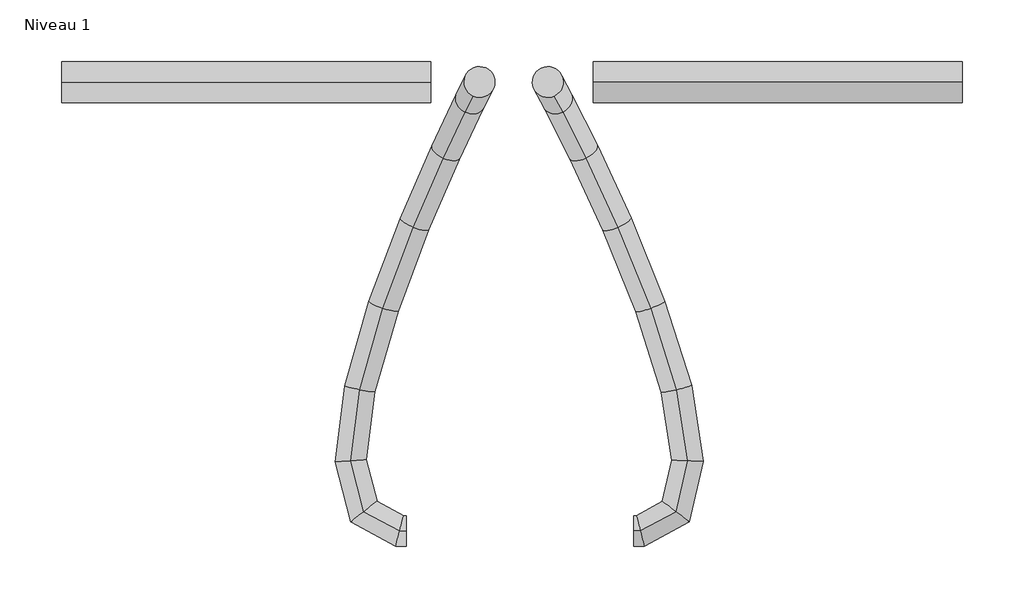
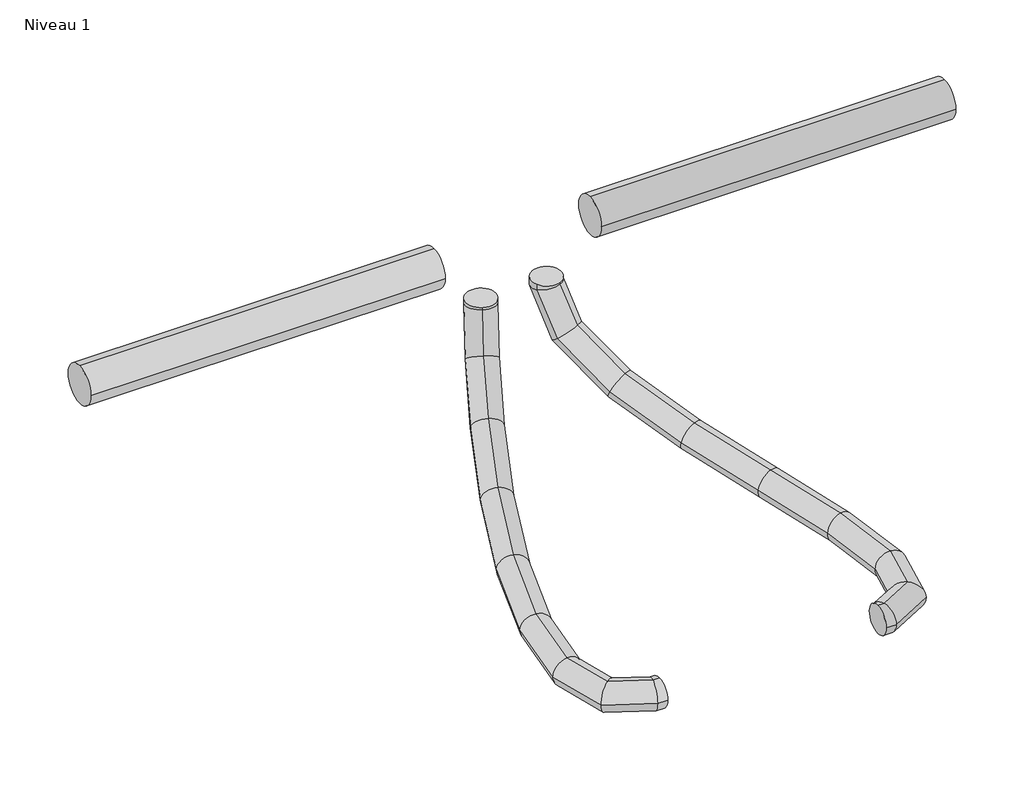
# One storey, incomplete: 4 pipe segments.
"""IFC4 building model written with IfcOpenShell, lengths in millimetres."""

import ifcopenshell
import ifcopenshell.guid

model = None  # the IFC model being written
_history = None  # IfcOwnerHistory: only IFC2X3 demands one
_inside = {}  # id of a spatial element -> (the spatial element, [elements in it])
_under = {}  # id of a project, library or spatial element -> (it, [spatial elements below it])
_declared = {}  # id of a project -> (the project, [libraries it declares])
_typed = {}  # id of a type object -> (the type object, [elements of that type])
_made_of = {}  # id of a material, layer set ... -> (it, [elements and type objects made of it])


def new_model(schema):
    """Start an empty IFC model of exactly this schema.

    Asked for "IFC4X3", IfcOpenShell would pick the latest addendum, in which some entities
    have other attributes; the version numbers below select the first issue.
    IFC2X3 requires an IfcOwnerHistory on every rooted entity: one is made here for all.
    """
    global model, _history
    if schema == "IFC4X3":
        model = ifcopenshell.file(schema_version=(4, 3, 0, 0))
    else:
        model = ifcopenshell.file(schema=schema)
    _inside.clear()
    _under.clear()
    _declared.clear()
    _typed.clear()
    _made_of.clear()
    _history = None
    if model.schema == "IFC2X3":
        org = make("IfcOrganization", Name="unknown")
        user = make(
            "IfcPersonAndOrganization",
            ThePerson=make("IfcPerson", FamilyName="unknown"),
            TheOrganization=org,
        )
        app = make(
            "IfcApplication",
            ApplicationDeveloper=org,
            Version="unknown",
            ApplicationFullName="unknown",
            ApplicationIdentifier="unknown",
        )
        _history = make(
            "IfcOwnerHistory",
            OwningUser=user,
            OwningApplication=app,
            ChangeAction="ADDED",
            CreationDate=0,
        )
    return model


def make(cls, **values):
    """One entity of the class cls with the attributes given. An attribute that is None is left unset."""
    return model.create_entity(
        cls, **{name: value for name, value in values.items() if value is not None}
    )


def rooted(cls, **values):
    """An entity with a GlobalId (a new one), such as an element, a storey or a relation."""
    return make(cls, GlobalId=ifcopenshell.guid.new(), OwnerHistory=_history, **values)


def si_unit(unit_type, name, prefix=None):
    """IfcSIUnit, for example si_unit("LENGTHUNIT", "METRE", prefix="MILLI")."""
    return make("IfcSIUnit", UnitType=unit_type, Prefix=prefix, Name=name)


def assignment(units):
    """IfcUnitAssignment: the units of a project."""
    return None if units is None else make("IfcUnitAssignment", Units=units)


def point(xyz):
    """IfcCartesianPoint."""
    return None if xyz is None else make("IfcCartesianPoint", Coordinates=xyz)


def direction(xyz):
    """IfcDirection."""
    return None if xyz is None else make("IfcDirection", DirectionRatios=xyz)


def frame(location, z_axis=None, x_axis=None):
    """IfcAxis2Placement3D, a coordinate frame: its origin and axes. An axis left out is left unset."""
    return make(
        "IfcAxis2Placement3D",
        Location=point(location),
        Axis=direction(z_axis),
        RefDirection=direction(x_axis),
    )


def frame_2d(location, x_axis=None):
    """IfcAxis2Placement2D, a coordinate frame in the plane: its origin and x axis."""
    return make(
        "IfcAxis2Placement2D", Location=point(location), RefDirection=direction(x_axis)
    )


def origin():
    """The frame at (0, 0, 0) with its axes left unset."""
    return frame((0.0, 0.0, 0.0))


def place(relative_to, where):
    """IfcLocalPlacement: puts the frame where relative to a parent placement (None: the world)."""
    return make(
        "IfcLocalPlacement", PlacementRelTo=relative_to, RelativePlacement=where
    )


def context(
    kind, dimensions, precision=None, world=None, true_north=None, identifier=None
):
    """IfcGeometricRepresentationContext, for example the 3D "Model" context."""
    return make(
        "IfcGeometricRepresentationContext",
        ContextIdentifier=identifier,
        ContextType=kind,
        CoordinateSpaceDimension=dimensions,
        Precision=precision,
        WorldCoordinateSystem=world,
        TrueNorth=true_north,
    )


def project(units=None, contexts=None):
    """IfcProject with its units and contexts."""
    return rooted(
        "IfcProject",
        Name="project",
        RepresentationContexts=contexts,
        UnitsInContext=assignment(units),
    )


def spatial(cls, under=None, at=None, **own):
    """A site, building, storey or space (cls), placed at a placement, below another one or the project."""
    s = rooted(cls, ObjectPlacement=at, **own)
    if under is not None:
        _under.setdefault(under.id(), (under, []))[1].append(s)
    return s


def circle_curve(where, radius):
    """IfcCircle in the frame where."""
    return make("IfcCircle", Position=where, Radius=radius)


def ellipse_curve(where, semi_axis1, semi_axis2):
    """IfcEllipse in the frame where."""
    return make(
        "IfcEllipse", Position=where, SemiAxis1=semi_axis1, SemiAxis2=semi_axis2
    )


def trimmed(basis, trim1, trim2, sense, master):
    """IfcTrimmedCurve: the piece of a basis curve between two trims."""
    return make(
        "IfcTrimmedCurve",
        BasisCurve=basis,
        Trim1=trim1,
        Trim2=trim2,
        SenseAgreement=sense,
        MasterRepresentation=master,
    )


def segment(curve, same_sense, transition):
    """IfcCompositeCurveSegment."""
    return make(
        "IfcCompositeCurveSegment",
        Transition=transition,
        SameSense=same_sense,
        ParentCurve=curve,
    )


def composite_curve(segments, self_intersect=None):
    """IfcCompositeCurve: segments joined end to end."""
    return make("IfcCompositeCurve", Segments=segments, SelfIntersect=self_intersect)


def outline(outer, holes=None, kind="AREA"):
    """IfcArbitraryClosedProfileDef: a profile drawn as a closed curve; with holes, ...WithVoids."""
    if holes is None:
        return make("IfcArbitraryClosedProfileDef", ProfileType=kind, OuterCurve=outer)
    return make(
        "IfcArbitraryProfileDefWithVoids",
        ProfileType=kind,
        OuterCurve=outer,
        InnerCurves=holes,
    )


def extrude(swept, where, along, depth):
    """IfcExtrudedAreaSolid: the profile swept, set in the frame where, extruded along a direction by depth."""
    return make(
        "IfcExtrudedAreaSolid",
        SweptArea=swept,
        Position=where,
        ExtrudedDirection=direction(along),
        Depth=depth,
    )


def shape(context_of_items, identifier, shape_type, items):
    """IfcShapeRepresentation: the items that make up one representation, for example the "Body"."""
    return make(
        "IfcShapeRepresentation",
        ContextOfItems=context_of_items,
        RepresentationIdentifier=identifier,
        RepresentationType=shape_type,
        Items=items,
    )


def made_of(thing, what):
    """Note that an element or type object is made of a material, layer set ...; save() writes the relation."""
    if what is not None:
        _made_of.setdefault(what.id(), (what, []))[1].append(thing)
    return thing


def element(
    cls,
    number,
    at=None,
    inside=None,
    cuts=None,
    type_object=None,
    material=None,
    context=None,
    identifier="Body",
    shape_type=None,
    held_by="IfcProductDefinitionShape",
    body=None,
    shapes=None,
    **own,
):
    """One element of the class cls, such as IfcWall. Its Tag is "e" and its number.

    at: its placement. inside: the storey or other place that contains it. cuts: it is an
    opening in that element (IfcRelVoidsElement). A single representation is given by context,
    identifier, shape_type and body (its items); several are given by shapes. held_by: the class
    of the entity that holds the representations. save() writes the other relations.
    """
    e = rooted(cls, Tag="e%d" % number, ObjectPlacement=at, **own)
    if body is not None:
        shapes = [shape(context, identifier, shape_type, body)]
    if shapes is not None:
        e.Representation = make(held_by, Representations=shapes)
    if inside is not None:
        _inside.setdefault(inside.id(), (inside, []))[1].append(e)
    if cuts is not None:
        rooted(
            "IfcRelVoidsElement", RelatingBuildingElement=cuts, RelatedOpeningElement=e
        )
    if type_object is not None:
        _typed.setdefault(type_object.id(), (type_object, []))[1].append(e)
    return made_of(e, material)


def aggregate(whole, parts):
    """IfcRelAggregates: a whole, such as a stair, and the parts it consists of."""
    return rooted("IfcRelAggregates", RelatingObject=whole, RelatedObjects=parts)


def save(model, path):
    """Write the relations noted so far, then the file.

    IfcRelAggregates (storeys below a building ...), IfcRelContainedInSpatialStructure (elements
    in a storey), IfcRelDefinesByType, IfcRelAssociatesMaterial and IfcRelDeclares: one each for
    every whole, place, type object, material and project.
    """
    for whole, parts in _under.values():
        aggregate(whole, parts)
    for where, things in _inside.values():
        rooted(
            "IfcRelContainedInSpatialStructure",
            RelatedElements=things,
            RelatingStructure=where,
        )
    for kind, things in _typed.values():
        rooted("IfcRelDefinesByType", RelatedObjects=things, RelatingType=kind)
    for what, things in _made_of.values():
        rooted("IfcRelAssociatesMaterial", RelatedObjects=things, RelatingMaterial=what)
    for by, libraries in _declared.values():
        rooted("IfcRelDeclares", RelatingContext=by, RelatedDefinitions=libraries)
    model.write(path)


def plane_surface(at):
    """IfcPlane: the flat surface through the origin of the frame at, square to its z axis."""
    return make("IfcPlane", Position=at)


def cylinder_surface(at, radius):
    """IfcCylindricalSurface: all points at the distance radius from the z axis of the frame at."""
    return make("IfcCylindricalSurface", Position=at, Radius=radius)


def advanced_brep(points, edges, surfaces, faces):
    """IfcAdvancedBrep: a solid bounded by faces that lie on surfaces and meet in shared edges.

    An edge is (start, end): straight between two places in points (the first is 0);
    or (start, end, curve); or (start, end, curve, False) where it runs against its curve.
    A face is (place in surfaces, loops), or (place, loops, False) where it looks against
    its surface's normal. A loop lists edges by number (the first is 1), with a minus sign
    where the edge is run from its end to its start. The first loop is the outer one.
    """
    corners = [point(p) for p in points]
    vertices = [make("IfcVertexPoint", VertexGeometry=c) for c in corners]
    made = []
    for start, end, *more in edges:
        made.append(
            make(
                "IfcEdgeCurve",
                EdgeStart=vertices[start],
                EdgeEnd=vertices[end],
                EdgeGeometry=more[0] if more else make("IfcPolyline", Points=[corners[start], corners[end]]),
                SameSense=more[1] if len(more) > 1 else True,
            )
        )
    hull = []
    for where, loops, *sense in faces:
        bounds = []
        for j, loop in enumerate(loops):
            ring = [make("IfcOrientedEdge", EdgeElement=made[abs(k) - 1], Orientation=k > 0) for k in loop]
            bounds.append(
                make(
                    "IfcFaceOuterBound" if j == 0 else "IfcFaceBound",
                    Bound=make("IfcEdgeLoop", EdgeList=ring),
                    Orientation=True,
                )
            )
        hull.append(make("IfcAdvancedFace", Bounds=bounds, FaceSurface=surfaces[where], SameSense=sense[0] if sense else True))
    return make("IfcAdvancedBrep", Outer=make("IfcClosedShell", CfsFaces=hull))


model = new_model("IFC4")

# Units and contexts
model_context = context("Model", 3, world=origin())
ifc_project = project(units=[si_unit("LENGTHUNIT", "METRE", prefix="MILLI")], contexts=[model_context])

# Site, building, storey
site = spatial("IfcSite", under=ifc_project)
building = spatial("IfcBuilding", under=site)
storey = spatial("IfcBuildingStorey", under=building, Name="Niveau 1", Elevation=0.0)

# Pipe segments
placement = place(None, origin())
element("IfcPipeSegment", 1, ObjectType="Souple - Circulaire", at=placement, inside=storey, context=model_context, shape_type="AdvancedBrep", body=[
    advanced_brep(
    [(1991.2042978, 1329.673443, 947.5328769), (1991.2042978, 1342.173443, 935.0328769), (1991.2042978, 1354.673443, 947.5328769), (1991.2042978, 1342.173443, 960.0328769), (1982.8698124, 1329.673443, 947.5328769), (1986.1222234, 1342.173443, 935.0328769), (1989.1606692, 1354.673443, 947.5328769), (1985.9082582, 1342.173443, 960.0328769), (2039.4376652, 1712.3356074, 1057.9740311), (2045.8870986, 1695.8764212, 1057.9740311), (2062.3462848, 1702.3258545, 1057.9740311), (2055.8968514, 1718.7850407, 1057.9740311), (1946.0664723, 1349.4490423, 946.8602673), (1957.0116441, 1357.8154785, 934.5008585), (1967.563011, 1366.2785483, 947.1381629), (1956.6178392, 1357.9121121, 959.4975718), (1933.5340361, 1398.4278225, 946.4932663), (1946.3732337, 1399.3921006, 934.1893223), (1958.9266814, 1400.030716, 946.8852558), (1946.0874837, 1399.066438, 959.1891998), (1941.2450421, 1460.2293997, 948.448587), (1953.7373445, 1458.4134087, 936.0566789), (1965.8093729, 1455.1935826, 948.6305365), (1953.3170705, 1457.0095737, 961.0224445), (1960.90498, 1528.6829386, 954.5210301), (1973.2216407, 1526.2553842, 942.0748709), (1984.657713, 1520.8212354, 954.4522982), (1972.3410523, 1523.2487898, 966.8984574), (1986.4661934, 1596.4492185, 966.6311642), (1998.9867083, 1594.5621096, 954.281585), (2009.6714751, 1587.1361471, 966.3030663), (1997.1509602, 1589.023256, 978.6526455), (2012.0236742, 1655.3012264, 986.7076581), (2025.3714011, 1655.3189644, 975.0078893), (2034.9077843, 1645.2485831, 986.1272662), (2021.5600574, 1645.230845, 997.827035), (2031.6334158, 1696.7245392, 1016.6061946), (2046.8351623, 1700.6586794, 1007.7332082), (2054.4627642, 1686.5562182, 1015.9423088), (2039.2610177, 1682.6220781, 1024.8152952), (2039.4376652, 1712.3356074, 1053.2728053), (2055.8968514, 1718.7850407, 1050.3076323), (2062.3462848, 1702.3258545, 1052.9813578), (2045.8870986, 1695.8764212, 1055.9465308)],
    [
        (0, 1, circle_curve(frame((1991.2042978, 1342.173443, 947.5328769), z_axis=(1.0, 0.0, 0.0), x_axis=(0.0, -1.0, 0.0)), 12.5)),
        (1, 2, circle_curve(frame((1991.2042978, 1342.173443, 947.5328769), z_axis=(1.0, 0.0, 0.0), x_axis=(0.0, -1.0, 0.0)), 12.5)),
        (2, 3, circle_curve(frame((1991.2042978, 1342.173443, 947.5328769), z_axis=(1.0, 0.0, 0.0), x_axis=(0.0, -1.0, 0.0)), 12.5)),
        (3, 0, circle_curve(frame((1991.2042978, 1342.173443, 947.5328769), z_axis=(1.0, 0.0, 0.0), x_axis=(0.0, -1.0, 0.0)), 12.5)),
        (0, 4),
        (4, 5, ellipse_curve(frame((1986.0152408, 1342.173443, 947.5328769), z_axis=(0.9697350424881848, -0.24401857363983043, 0.00829958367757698), x_axis=(0.24415967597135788, 0.9691746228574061, -0.032963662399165)), 12.8901189, 12.5)),
        (5, 1),
        (5, 6, ellipse_curve(frame((1986.0152408, 1342.173443, 947.5328769), z_axis=(0.9697350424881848, -0.24401857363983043, 0.00829958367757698), x_axis=(0.24415967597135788, 0.9691746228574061, -0.032963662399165)), 12.8901189, 12.5)),
        (6, 2),
        (6, 7, ellipse_curve(frame((1986.0152408, 1342.173443, 947.5328769), z_axis=(0.9697350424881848, -0.24401857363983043, 0.00829958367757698), x_axis=(0.24415967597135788, 0.9691746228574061, -0.032963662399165)), 12.8901189, 12.5)),
        (7, 3),
        (7, 4, ellipse_curve(frame((1986.0152408, 1342.173443, 947.5328769), z_axis=(0.9697350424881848, -0.24401857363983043, 0.00829958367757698), x_axis=(0.24415967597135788, 0.9691746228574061, -0.032963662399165)), 12.8901189, 12.5)),
        (8, 9, circle_curve(frame((2050.891975, 1707.3307309, 1057.9740311), z_axis=(0.0, 0.0, 1.0), x_axis=(-0.9163447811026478, 0.40039011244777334, 0.0)), 12.5)),
        (9, 10, circle_curve(frame((2050.891975, 1707.3307309, 1057.9740311), z_axis=(0.0, 0.0, 1.0), x_axis=(-0.9163447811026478, 0.40039011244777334, 0.0)), 12.5)),
        (10, 11, circle_curve(frame((2050.891975, 1707.3307309, 1057.9740311), z_axis=(0.0, 0.0, 1.0), x_axis=(-0.9163447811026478, 0.40039011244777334, 0.0)), 12.5)),
        (11, 8, circle_curve(frame((2050.891975, 1707.3307309, 1057.9740311), z_axis=(0.0, 0.0, 1.0), x_axis=(-0.9163447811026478, 0.40039011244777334, 0.0)), 12.5)),
        (4, 12),
        (12, 13, ellipse_curve(frame((1956.8147417, 1357.8637953, 946.9992151), z_axis=(0.6162950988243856, -0.7874120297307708, 0.012753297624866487), x_axis=(0.7873420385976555, 0.6164183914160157, 0.01099458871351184)), 13.6511059, 12.5)),
        (13, 5),
        (13, 14, ellipse_curve(frame((1956.8147417, 1357.8637953, 946.9992151), z_axis=(0.6162950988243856, -0.7874120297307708, 0.012753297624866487), x_axis=(0.7873420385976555, 0.6164183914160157, 0.01099458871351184)), 13.6511059, 12.5)),
        (14, 6),
        (14, 15, ellipse_curve(frame((1956.8147417, 1357.8637953, 946.9992151), z_axis=(0.6162950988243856, -0.7874120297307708, 0.012753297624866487), x_axis=(0.7873420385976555, 0.6164183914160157, 0.01099458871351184)), 13.6511059, 12.5)),
        (15, 7),
        (15, 12, ellipse_curve(frame((1956.8147417, 1357.8637953, 946.9992151), z_axis=(0.6162950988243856, -0.7874120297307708, 0.012753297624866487), x_axis=(0.7873420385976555, 0.6164183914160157, 0.01099458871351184)), 13.6511059, 12.5)),
        (12, 16),
        (16, 17, ellipse_curve(frame((1946.2303587, 1399.2292693, 946.689261), z_axis=(0.0631829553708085, -0.9979264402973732, -0.012277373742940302), x_axis=(0.9927504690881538, 0.06158537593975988, 0.10321699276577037)), 12.7248865, 12.5)),
        (17, 13),
        (17, 18, ellipse_curve(frame((1946.2303587, 1399.2292693, 946.689261), z_axis=(0.0631829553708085, -0.9979264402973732, -0.012277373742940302), x_axis=(0.9927504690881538, 0.06158537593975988, 0.10321699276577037)), 12.7248865, 12.5)),
        (18, 14),
        (18, 19, ellipse_curve(frame((1946.2303587, 1399.2292693, 946.689261), z_axis=(0.0631829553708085, -0.9979264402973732, -0.012277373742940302), x_axis=(0.9927504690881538, 0.06158537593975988, 0.10321699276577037)), 12.7248865, 12.5)),
        (19, 15),
        (19, 16, ellipse_curve(frame((1946.2303587, 1399.2292693, 946.689261), z_axis=(0.0631829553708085, -0.9979264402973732, -0.012277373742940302), x_axis=(0.9927504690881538, 0.06158537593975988, 0.10321699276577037)), 12.7248865, 12.5)),
        (16, 20),
        (20, 21, ellipse_curve(frame((1953.5272075, 1457.7114912, 948.5395617), z_axis=(-0.20007134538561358, -0.9780414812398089, -0.058363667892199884), x_axis=(0.9220103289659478, -0.20809229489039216, 0.3264882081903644)), 12.5422859, 12.5)),
        (21, 17),
        (21, 22, ellipse_curve(frame((1953.5272075, 1457.7114912, 948.5395617), z_axis=(-0.20007134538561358, -0.9780414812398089, -0.058363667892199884), x_axis=(0.9220103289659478, -0.20809229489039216, 0.3264882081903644)), 12.5422859, 12.5)),
        (22, 18),
        (22, 23, ellipse_curve(frame((1953.5272075, 1457.7114912, 948.5395617), z_axis=(-0.20007134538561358, -0.9780414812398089, -0.058363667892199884), x_axis=(0.9220103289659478, -0.20809229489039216, 0.3264882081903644)), 12.5422859, 12.5)),
        (23, 19),
        (23, 20, ellipse_curve(frame((1953.5272075, 1457.7114912, 948.5395617), z_axis=(-0.20007134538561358, -0.9780414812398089, -0.058363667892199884), x_axis=(0.9220103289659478, -0.20809229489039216, 0.3264882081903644)), 12.5422859, 12.5)),
        (20, 24),
        (24, 25, ellipse_curve(frame((1972.7813465, 1524.752087, 954.4866641), z_axis=(-0.3120735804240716, -0.9417805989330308, -0.1251374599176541), x_axis=(0.6420822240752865, -0.30615404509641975, 0.7028514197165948)), 12.5202727, 12.5)),
        (25, 21),
        (25, 26, ellipse_curve(frame((1972.7813465, 1524.752087, 954.4866641), z_axis=(-0.3120735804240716, -0.9417805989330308, -0.1251374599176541), x_axis=(0.6420822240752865, -0.30615404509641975, 0.7028514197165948)), 12.5202727, 12.5)),
        (26, 22),
        (26, 27, ellipse_curve(frame((1972.7813465, 1524.752087, 954.4866641), z_axis=(-0.3120735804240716, -0.9417805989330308, -0.1251374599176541), x_axis=(0.6420822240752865, -0.30615404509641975, 0.7028514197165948)), 12.5202727, 12.5)),
        (27, 23),
        (27, 24, ellipse_curve(frame((1972.7813465, 1524.752087, 954.4866641), z_axis=(-0.3120735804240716, -0.9417805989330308, -0.1251374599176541), x_axis=(0.6420822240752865, -0.30615404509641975, 0.7028514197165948)), 12.5202727, 12.5)),
        (24, 28),
        (28, 29, ellipse_curve(frame((1998.0688343, 1591.7926828, 966.4671153), z_axis=(-0.36508932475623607, -0.9015022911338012, -0.2323863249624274), x_axis=(0.22040960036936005, -0.32621965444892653, 0.919239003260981)), 12.5331911, 12.5)),
        (29, 25),
        (29, 30, ellipse_curve(frame((1998.0688343, 1591.7926828, 966.4671153), z_axis=(-0.36508932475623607, -0.9015022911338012, -0.2323863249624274), x_axis=(0.22040960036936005, -0.32621965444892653, 0.919239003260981)), 12.5331911, 12.5)),
        (30, 26),
        (30, 31, ellipse_curve(frame((1998.0688343, 1591.7926828, 966.4671153), z_axis=(-0.36508932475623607, -0.9015022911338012, -0.2323863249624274), x_axis=(0.22040960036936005, -0.32621965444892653, 0.919239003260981)), 12.5331911, 12.5)),
        (31, 27),
        (31, 28, ellipse_curve(frame((1998.0688343, 1591.7926828, 966.4671153), z_axis=(-0.36508932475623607, -0.9015022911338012, -0.2323863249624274), x_axis=(0.22040960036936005, -0.32621965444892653, 0.919239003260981)), 12.5331911, 12.5)),
        (28, 32),
        (32, 33, ellipse_curve(frame((2023.4657292, 1650.2749047, 986.4174621), z_axis=(-0.3728094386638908, -0.8240453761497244, -0.42657044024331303), x_axis=(-0.07911259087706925, -0.42981054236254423, 0.8994465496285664)), 12.6202703, 12.5)),
        (33, 29),
        (33, 34, ellipse_curve(frame((2023.4657292, 1650.2749047, 986.4174621), z_axis=(-0.3728094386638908, -0.8240453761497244, -0.42657044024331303), x_axis=(-0.07911259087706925, -0.42981054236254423, 0.8994465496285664)), 12.6202703, 12.5)),
        (34, 30),
        (34, 35, ellipse_curve(frame((2023.4657292, 1650.2749047, 986.4174621), z_axis=(-0.3728094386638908, -0.8240453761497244, -0.42657044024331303), x_axis=(-0.07911259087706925, -0.42981054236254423, 0.8994465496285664)), 12.6202703, 12.5)),
        (35, 31),
        (35, 32, ellipse_curve(frame((2023.4657292, 1650.2749047, 986.4174621), z_axis=(-0.3728094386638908, -0.8240453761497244, -0.42657044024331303), x_axis=(-0.07911259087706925, -0.42981054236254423, 0.8994465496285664)), 12.6202703, 12.5)),
        (32, 36),
        (36, 37, ellipse_curve(frame((2043.04809, 1691.6403787, 1016.2742517), z_axis=(-0.28596440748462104, -0.5928809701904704, -0.7528057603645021), x_axis=(-0.30671569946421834, -0.6876488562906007, 0.6580763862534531)), 12.9855593, 12.5)),
        (37, 33),
        (37, 38, ellipse_curve(frame((2043.04809, 1691.6403787, 1016.2742517), z_axis=(-0.28596440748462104, -0.5928809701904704, -0.7528057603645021), x_axis=(-0.30671569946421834, -0.6876488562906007, 0.6580763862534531)), 12.9855593, 12.5)),
        (38, 34),
        (38, 39, ellipse_curve(frame((2043.04809, 1691.6403787, 1016.2742517), z_axis=(-0.28596440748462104, -0.5928809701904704, -0.7528057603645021), x_axis=(-0.30671569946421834, -0.6876488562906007, 0.6580763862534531)), 12.9855593, 12.5)),
        (39, 35),
        (39, 36, ellipse_curve(frame((2043.04809, 1691.6403787, 1016.2742517), z_axis=(-0.28596440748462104, -0.5928809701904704, -0.7528057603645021), x_axis=(-0.30671569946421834, -0.6876488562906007, 0.6580763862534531)), 12.9855593, 12.5)),
        (36, 40),
        (40, 41, ellipse_curve(frame((2050.891975, 1707.3307309, 1053.1270816), z_axis=(-0.0985116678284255, -0.19705576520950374, -0.9754304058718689), x_axis=(-0.43616830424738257, -0.8724801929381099, 0.22030779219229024)), 12.8148558, 12.5)),
        (41, 37),
        (41, 42, ellipse_curve(frame((2050.891975, 1707.3307309, 1053.1270816), z_axis=(-0.0985116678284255, -0.19705576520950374, -0.9754304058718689), x_axis=(-0.43616830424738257, -0.8724801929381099, 0.22030779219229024)), 12.8148558, 12.5)),
        (42, 38),
        (42, 43, ellipse_curve(frame((2050.891975, 1707.3307309, 1053.1270816), z_axis=(-0.0985116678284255, -0.19705576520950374, -0.9754304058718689), x_axis=(-0.43616830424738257, -0.8724801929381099, 0.22030779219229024)), 12.8148558, 12.5)),
        (43, 39),
        (43, 40, ellipse_curve(frame((2050.891975, 1707.3307309, 1053.1270816), z_axis=(-0.0985116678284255, -0.19705576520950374, -0.9754304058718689), x_axis=(-0.43616830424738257, -0.8724801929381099, 0.22030779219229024)), 12.8148558, 12.5)),
        (40, 8),
        (11, 41),
        (10, 42),
        (9, 43),
    ],
    [
        plane_surface(frame((1991.2042978, 1342.173443, 935.0328769), z_axis=(1.0, 0.0, 0.0), x_axis=(0.0, -1.0, 0.0))),
        cylinder_surface(frame((1991.2042978, 1342.173443, 947.5328769), z_axis=(1.0, 0.0, 0.0), x_axis=(0.0, -1.0, 0.0)), 12.5),
        plane_surface(frame((2050.891975, 1694.8307309, 1057.9740311), z_axis=(0.0, 0.0, 1.0), x_axis=(1.0, 0.0, 0.0))),
        cylinder_surface(frame((1986.0152408, 1342.173443, 947.5328769), z_axis=(0.8807721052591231, -0.47326672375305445, 0.016096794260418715), x_axis=(-0.47326672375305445, -0.8809098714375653, -0.004050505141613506)), 12.5),
        cylinder_surface(frame((1956.8147417, 1357.8637953, 946.9992151), z_axis=(0.24788205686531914, -0.9687630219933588, 0.007259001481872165), x_axis=(-0.9686637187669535, -0.24796381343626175, -0.014301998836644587)), 12.5),
        cylinder_surface(frame((1946.2303587, 1399.2292693, 946.689261), z_axis=(-0.12374940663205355, -0.9918172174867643, -0.03137979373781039), x_axis=(-0.9922211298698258, 0.12410747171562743, -0.009724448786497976)), 12.5),
        cylinder_surface(frame((1953.5272075, 1457.7114912, 948.5395617), z_axis=(-0.2750442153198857, -0.9576708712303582, -0.08495399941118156), x_axis=(-0.9611299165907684, 0.2760957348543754, -0.0006546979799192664)), 12.5),
        cylinder_surface(frame((1972.7813465, 1524.752087, 954.4866641), z_axis=(-0.34809233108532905, -0.9228404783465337, -0.16491567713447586), x_axis=(-0.936161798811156, 0.3514449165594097, 0.009357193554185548)), 12.5),
        cylinder_surface(frame((1998.0688343, 1591.7926828, 966.4671153), z_axis=(-0.3801526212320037, -0.875389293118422, -0.29862613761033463), x_axis=(-0.9195284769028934, 0.3925169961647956, 0.019944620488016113)), 12.5),
        cylinder_surface(frame((2023.4657292, 1650.2749047, 986.4174621), z_axis=(-0.3583605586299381, -0.7569952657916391, -0.5463843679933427), x_axis=(-0.9114390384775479, 0.41039761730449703, 0.029200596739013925)), 12.5),
        cylinder_surface(frame((2043.04809, 1691.6403787, 1016.2742517), z_axis=(-0.19218255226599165, -0.38442837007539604, -0.9029289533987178), x_axis=(-0.9141043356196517, 0.404871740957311, 0.02218416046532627)), 12.5),
        cylinder_surface(frame((2050.891975, 1707.3307309, 1053.1270816), z_axis=(0.0, 0.0, -1.0000000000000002), x_axis=(-0.9163447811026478, 0.40039011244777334, 0.0)), 12.5),
    ],
    [
        (0, [[1, 2, 3, 4]]),
        (1, [[-1, 5, 6, 7]]),
        (1, [[-2, -7, 8, 9]]),
        (1, [[-3, -9, 10, 11]]),
        (1, [[-4, -11, 12, -5]]),
        (2, [[13, 14, 15, 16]]),
        (3, [[-6, 17, 18, 19]]),
        (3, [[-8, -19, 20, 21]]),
        (3, [[-10, -21, 22, 23]]),
        (3, [[-12, -23, 24, -17]]),
        (4, [[-18, 25, 26, 27]]),
        (4, [[-20, -27, 28, 29]]),
        (4, [[-22, -29, 30, 31]]),
        (4, [[-24, -31, 32, -25]]),
        (5, [[-26, 33, 34, 35]]),
        (5, [[-28, -35, 36, 37]]),
        (5, [[-30, -37, 38, 39]]),
        (5, [[-32, -39, 40, -33]]),
        (6, [[-34, 41, 42, 43]]),
        (6, [[-36, -43, 44, 45]]),
        (6, [[-38, -45, 46, 47]]),
        (6, [[-40, -47, 48, -41]]),
        (7, [[-42, 49, 50, 51]]),
        (7, [[-44, -51, 52, 53]]),
        (7, [[-46, -53, 54, 55]]),
        (7, [[-48, -55, 56, -49]]),
        (8, [[-50, 57, 58, 59]]),
        (8, [[-52, -59, 60, 61]]),
        (8, [[-54, -61, 62, 63]]),
        (8, [[-56, -63, 64, -57]]),
        (9, [[-58, 65, 66, 67]]),
        (9, [[-60, -67, 68, 69]]),
        (9, [[-62, -69, 70, 71]]),
        (9, [[-64, -71, 72, -65]]),
        (10, [[-66, 73, 74, 75]]),
        (10, [[-68, -75, 76, 77]]),
        (10, [[-70, -77, 78, 79]]),
        (10, [[-72, -79, 80, -73]]),
        (11, [[-74, 81, -16, 82]]),
        (11, [[-76, -82, -15, 83]]),
        (11, [[-78, -83, -14, 84]]),
        (11, [[-80, -84, -13, -81]]),
    ],
),
])
element("IfcPipeSegment", 2, ObjectType="Souple - Circulaire", at=placement, inside=storey, context=model_context, shape_type="AdvancedBrep", body=[
    advanced_brep(
    [(2176.2290812, 1354.673443, 947.5328769), (2176.2290812, 1342.173443, 935.0328769), (2176.2290812, 1329.673443, 947.5328769), (2176.2290812, 1342.173443, 960.0328769), (2178.277705, 1354.673443, 947.5328769), (2181.3396238, 1342.173443, 935.0328769), (2184.6278972, 1329.673443, 947.5328769), (2181.5659783, 1342.173443, 960.0328769), (2095.0648451, 1702.0186937, 1057.91328), (2111.6920164, 1696.0155968, 1057.91328), (2117.6951133, 1712.6427682, 1057.91328), (2101.0679419, 1718.6458651, 1057.91328), (2199.4255676, 1366.1588622, 947.1234757), (2210.1254859, 1357.8070651, 934.4756118), (2221.260671, 1349.5687284, 946.8237035), (2210.5607527, 1357.9205255, 959.4715675), (2207.1364127, 1399.7024469, 946.8212262), (2219.6798773, 1399.3704128, 934.101099), (2232.567636, 1398.7560917, 946.3804934), (2220.0241714, 1399.0881258, 959.1006206), (2198.7277488, 1454.8668212, 948.4922487), (2210.6848323, 1458.3816944, 935.8886508), (2223.1474982, 1460.5561611, 948.2525223), (2211.1904147, 1457.041288, 960.8561202), (2178.0108979, 1520.5161846, 954.2438411), (2189.2805123, 1526.2095695, 941.8311043), (2201.5525898, 1528.9879894, 954.2478887), (2190.2829754, 1523.2946045, 966.6606254), (2151.084528, 1586.8444827, 966.0501841), (2161.5598152, 1594.4945508, 953.9857342), (2174.0478969, 1596.740883, 966.3078077), (2163.5726097, 1589.0908149, 978.3722576), (2124.1611236, 1644.9598565, 985.8755193), (2133.4286535, 1655.2169228, 974.7004143), (2146.7845894, 1655.5899529, 986.3834341), (2137.5170595, 1645.3328866, 997.5585391), (2103.4058822, 1686.2574563, 1015.7519449), (2110.6599904, 1700.5207146, 1007.4750882), (2125.9611238, 1697.0233012, 1016.358066), (2118.7070157, 1682.7600428, 1024.6349226), (2095.0648451, 1702.0186937, 1052.8968), (2101.0679419, 1718.6458651, 1050.1910292), (2117.6951133, 1712.6427682, 1053.1688076), (2111.6920164, 1696.0155968, 1055.8745784)],
    [
        (0, 1, circle_curve(frame((2176.2290812, 1342.173443, 947.5328769), z_axis=(-1.0, 0.0, 0.0), x_axis=(0.0, 1.0, 0.0)), 12.5)),
        (1, 2, circle_curve(frame((2176.2290812, 1342.173443, 947.5328769), z_axis=(-1.0, 0.0, 0.0), x_axis=(0.0, 1.0, 0.0)), 12.5)),
        (2, 3, circle_curve(frame((2176.2290812, 1342.173443, 947.5328769), z_axis=(-1.0, 0.0, 0.0), x_axis=(0.0, 1.0, 0.0)), 12.5)),
        (3, 0, circle_curve(frame((2176.2290812, 1342.173443, 947.5328769), z_axis=(-1.0, 0.0, 0.0), x_axis=(0.0, 1.0, 0.0)), 12.5)),
        (0, 4),
        (4, 5, ellipse_curve(frame((2181.4528011, 1342.173443, 947.5328769), z_axis=(-0.9691843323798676, -0.24618027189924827, 0.00877516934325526), x_axis=(-0.24633661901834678, 0.9685692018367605, -0.034524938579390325)), 12.8974433, 12.5)),
        (5, 1),
        (5, 6, ellipse_curve(frame((2181.4528011, 1342.173443, 947.5328769), z_axis=(-0.9691843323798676, -0.24618027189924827, 0.00877516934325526), x_axis=(-0.24633661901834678, 0.9685692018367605, -0.034524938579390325)), 12.8974433, 12.5)),
        (6, 2),
        (6, 7, ellipse_curve(frame((2181.4528011, 1342.173443, 947.5328769), z_axis=(-0.9691843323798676, -0.24618027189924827, 0.00877516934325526), x_axis=(-0.24633661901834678, 0.9685692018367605, -0.034524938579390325)), 12.8974433, 12.5)),
        (7, 3),
        (7, 4, ellipse_curve(frame((2181.4528011, 1342.173443, 947.5328769), z_axis=(-0.9691843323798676, -0.24618027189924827, 0.00877516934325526), x_axis=(-0.24633661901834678, 0.9685692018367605, -0.034524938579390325)), 12.8974433, 12.5)),
        (8, 9, circle_curve(frame((2106.3799792, 1707.3307309, 1057.91328), z_axis=(0.0, 0.0, 1.0), x_axis=(-0.9052107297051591, -0.42496298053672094, 0.0)), 12.5)),
        (9, 10, circle_curve(frame((2106.3799792, 1707.3307309, 1057.91328), z_axis=(0.0, 0.0, 1.0), x_axis=(-0.9052107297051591, -0.42496298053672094, 0.0)), 12.5)),
        (10, 11, circle_curve(frame((2106.3799792, 1707.3307309, 1057.91328), z_axis=(0.0, 0.0, 1.0), x_axis=(-0.9052107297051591, -0.42496298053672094, 0.0)), 12.5)),
        (11, 8, circle_curve(frame((2106.3799792, 1707.3307309, 1057.91328), z_axis=(0.0, 0.0, 1.0), x_axis=(-0.9052107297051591, -0.42496298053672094, 0.0)), 12.5)),
        (4, 12),
        (12, 13, ellipse_curve(frame((2210.3431193, 1357.8637953, 946.9735896), z_axis=(-0.6047945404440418, -0.7962558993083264, 0.014145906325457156), x_axis=(-0.7962100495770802, 0.6049375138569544, 0.010008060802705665)), 13.7121686, 12.5)),
        (13, 5),
        (13, 14, ellipse_curve(frame((2210.3431193, 1357.8637953, 946.9735896), z_axis=(-0.6047945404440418, -0.7962558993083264, 0.014145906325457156), x_axis=(-0.7962100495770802, 0.6049375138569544, 0.010008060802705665)), 13.7121686, 12.5)),
        (14, 6),
        (14, 15, ellipse_curve(frame((2210.3431193, 1357.8637953, 946.9735896), z_axis=(-0.6047945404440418, -0.7962558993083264, 0.014145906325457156), x_axis=(-0.7962100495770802, 0.6049375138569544, 0.010008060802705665)), 13.7121686, 12.5)),
        (15, 7),
        (15, 12, ellipse_curve(frame((2210.3431193, 1357.8637953, 946.9735896), z_axis=(-0.6047945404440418, -0.7962558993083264, 0.014145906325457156), x_axis=(-0.7962100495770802, 0.6049375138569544, 0.010008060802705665)), 13.7121686, 12.5)),
        (12, 16),
        (16, 17, ellipse_curve(frame((2219.8520244, 1399.2292693, 946.6008598), z_axis=(-0.03737080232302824, -0.9992434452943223, -0.010768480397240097), x_axis=(-0.9940561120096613, 0.03606982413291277, 0.10272007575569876)), 12.7280327, 12.5)),
        (17, 13),
        (17, 18, ellipse_curve(frame((2219.8520244, 1399.2292693, 946.6008598), z_axis=(-0.03737080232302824, -0.9992434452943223, -0.010768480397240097), x_axis=(-0.9940561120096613, 0.03606982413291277, 0.10272007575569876)), 12.7280327, 12.5)),
        (18, 14),
        (18, 19, ellipse_curve(frame((2219.8520244, 1399.2292693, 946.6008598), z_axis=(-0.03737080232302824, -0.9992434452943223, -0.010768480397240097), x_axis=(-0.9940561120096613, 0.03606982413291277, 0.10272007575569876)), 12.7280327, 12.5)),
        (19, 15),
        (19, 16, ellipse_curve(frame((2219.8520244, 1399.2292693, 946.6008598), z_axis=(-0.03737080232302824, -0.9992434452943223, -0.010768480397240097), x_axis=(-0.9940561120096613, 0.03606982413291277, 0.10272007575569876)), 12.7280327, 12.5)),
        (16, 20),
        (20, 21, ellipse_curve(frame((2210.9376235, 1457.7114912, 948.3723855), z_axis=(0.22600935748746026, -0.9724686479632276, -0.056784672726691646), x_axis=(-0.9160184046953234, -0.2319982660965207, 0.3272416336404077)), 12.5417009, 12.5)),
        (21, 17),
        (21, 22, ellipse_curve(frame((2210.9376235, 1457.7114912, 948.3723855), z_axis=(0.22600935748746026, -0.9724686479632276, -0.056784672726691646), x_axis=(-0.9160184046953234, -0.2319982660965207, 0.3272416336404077)), 12.5417009, 12.5)),
        (22, 18),
        (22, 23, ellipse_curve(frame((2210.9376235, 1457.7114912, 948.3723855), z_axis=(0.22600935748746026, -0.9724686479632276, -0.056784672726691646), x_axis=(-0.9160184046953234, -0.2319982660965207, 0.3272416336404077)), 12.5417009, 12.5)),
        (23, 19),
        (23, 20, ellipse_curve(frame((2210.9376235, 1457.7114912, 948.3723855), z_axis=(0.22600935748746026, -0.9724686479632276, -0.056784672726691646), x_axis=(-0.9160184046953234, -0.2319982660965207, 0.3272416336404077)), 12.5417009, 12.5)),
        (20, 24),
        (24, 25, ellipse_curve(frame((2189.7817438, 1524.752087, 954.2458649), z_axis=(0.3360457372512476, -0.9337545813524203, -0.12318946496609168), x_axis=(-0.6322463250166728, -0.320590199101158, 0.7053272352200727)), 12.5198824, 12.5)),
        (25, 21),
        (25, 26, ellipse_curve(frame((2189.7817438, 1524.752087, 954.2458649), z_axis=(0.3360457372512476, -0.9337545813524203, -0.12318946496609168), x_axis=(-0.6322463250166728, -0.320590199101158, 0.7053272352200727)), 12.5198824, 12.5)),
        (26, 22),
        (26, 27, ellipse_curve(frame((2189.7817438, 1524.752087, 954.2458649), z_axis=(0.3360457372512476, -0.9337545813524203, -0.12318946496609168), x_axis=(-0.6322463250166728, -0.320590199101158, 0.7053272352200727)), 12.5198824, 12.5)),
        (27, 23),
        (27, 24, ellipse_curve(frame((2189.7817438, 1524.752087, 954.2458649), z_axis=(0.3360457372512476, -0.9337545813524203, -0.12318946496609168), x_axis=(-0.6322463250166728, -0.320590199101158, 0.7053272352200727)), 12.5198824, 12.5)),
        (24, 28),
        (28, 29, ellipse_curve(frame((2162.5662125, 1591.7926828, 966.1789959), z_axis=(0.3873557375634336, -0.8928284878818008, -0.2298104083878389), x_axis=(-0.21071759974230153, -0.32841241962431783, 0.9207298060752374)), 12.5327136, 12.5)),
        (29, 25),
        (29, 30, ellipse_curve(frame((2162.5662125, 1591.7926828, 966.1789959), z_axis=(0.3873557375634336, -0.8928284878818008, -0.2298104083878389), x_axis=(-0.21071759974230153, -0.32841241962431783, 0.9207298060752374)), 12.5327136, 12.5)),
        (30, 26),
        (30, 31, ellipse_curve(frame((2162.5662125, 1591.7926828, 966.1789959), z_axis=(0.3873557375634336, -0.8928284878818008, -0.2298104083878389), x_axis=(-0.21071759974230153, -0.32841241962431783, 0.9207298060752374)), 12.5327136, 12.5)),
        (31, 27),
        (31, 28, ellipse_curve(frame((2162.5662125, 1591.7926828, 966.1789959), z_axis=(0.3873557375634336, -0.8928284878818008, -0.2298104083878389), x_axis=(-0.21071759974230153, -0.32841241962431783, 0.9207298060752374)), 12.5327136, 12.5)),
        (28, 32),
        (32, 33, ellipse_curve(frame((2135.4728565, 1650.2749047, 986.1294767), z_axis=(0.39305734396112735, -0.816298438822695, -0.42327624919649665), x_axis=(0.08907575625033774, -0.4243586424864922, 0.9011022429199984)), 12.6192436, 12.5)),
        (33, 29),
        (33, 34, ellipse_curve(frame((2135.4728565, 1650.2749047, 986.1294767), z_axis=(0.39305734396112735, -0.816298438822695, -0.42327624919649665), x_axis=(0.08907575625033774, -0.4243586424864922, 0.9011022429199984)), 12.6192436, 12.5)),
        (34, 30),
        (34, 35, ellipse_curve(frame((2135.4728565, 1650.2749047, 986.1294767), z_axis=(0.39305734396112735, -0.816298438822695, -0.42327624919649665), x_axis=(0.08907575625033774, -0.4243586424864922, 0.9011022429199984)), 12.6192436, 12.5)),
        (35, 31),
        (35, 32, ellipse_curve(frame((2135.4728565, 1650.2749047, 986.1294767), z_axis=(0.39305734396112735, -0.816298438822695, -0.42327624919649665), x_axis=(0.08907575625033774, -0.4243586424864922, 0.9011022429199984)), 12.6192436, 12.5)),
        (32, 36),
        (36, 37, ellipse_curve(frame((2114.683503, 1691.6403787, 1016.0550054), z_axis=(0.301074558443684, -0.588529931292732, -0.7503243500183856), x_axis=(0.3219274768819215, -0.6779112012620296, 0.6609077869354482)), 12.987164, 12.5)),
        (37, 33),
        (37, 38, ellipse_curve(frame((2114.683503, 1691.6403787, 1016.0550054), z_axis=(0.301074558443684, -0.588529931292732, -0.7503243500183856), x_axis=(0.3219274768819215, -0.6779112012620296, 0.6609077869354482)), 12.987164, 12.5)),
        (38, 34),
        (38, 39, ellipse_curve(frame((2114.683503, 1691.6403787, 1016.0550054), z_axis=(0.301074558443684, -0.588529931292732, -0.7503243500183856), x_axis=(0.3219274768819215, -0.6779112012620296, 0.6609077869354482)), 12.987164, 12.5)),
        (39, 35),
        (39, 36, ellipse_curve(frame((2114.683503, 1691.6403787, 1016.0550054), z_axis=(0.301074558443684, -0.588529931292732, -0.7503243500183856), x_axis=(0.3219274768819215, -0.6779112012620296, 0.6609077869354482)), 12.987164, 12.5)),
        (36, 40),
        (40, 41, ellipse_curve(frame((2106.3799792, 1707.3307309, 1053.0328038), z_axis=(0.10380611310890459, -0.19615220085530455, -0.9750633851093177), x_axis=(0.45608575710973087, -0.8618203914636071, 0.22192655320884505)), 12.8196794, 12.5)),
        (41, 37),
        (41, 42, ellipse_curve(frame((2106.3799792, 1707.3307309, 1053.0328038), z_axis=(0.10380611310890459, -0.19615220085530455, -0.9750633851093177), x_axis=(0.45608575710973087, -0.8618203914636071, 0.22192655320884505)), 12.8196794, 12.5)),
        (42, 38),
        (42, 43, ellipse_curve(frame((2106.3799792, 1707.3307309, 1053.0328038), z_axis=(0.10380611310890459, -0.19615220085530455, -0.9750633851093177), x_axis=(0.45608575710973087, -0.8618203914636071, 0.22192655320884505)), 12.8196794, 12.5)),
        (43, 39),
        (43, 40, ellipse_curve(frame((2106.3799792, 1707.3307309, 1053.0328038), z_axis=(0.10380611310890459, -0.19615220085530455, -0.9750633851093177), x_axis=(0.45608575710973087, -0.8618203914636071, 0.22192655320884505)), 12.8196794, 12.5)),
        (40, 8),
        (11, 41),
        (10, 42),
        (9, 43),
    ],
    [
        plane_surface(frame((2176.2290812, 1342.173443, 935.0328769), z_axis=(-1.0, 0.0, 0.0), x_axis=(0.0, 1.0, 0.0))),
        cylinder_surface(frame((2176.2290812, 1342.173443, 947.5328769), z_axis=(-1.0, 0.0, 0.0), x_axis=(0.0, 1.0, 0.0)), 12.5),
        plane_surface(frame((2106.3799792, 1694.8307309, 1057.91328), z_axis=(0.0, 0.0, 1.0), x_axis=(1.0, 0.0, 0.0))),
        cylinder_surface(frame((2181.4528011, 1342.173443, 947.5328769), z_axis=(-0.8786365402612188, -0.47718812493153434, 0.01700951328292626), x_axis=(-0.47718812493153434, 0.8787905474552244, 0.004320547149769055)), 12.5),
        cylinder_surface(frame((2210.3431193, 1357.8637953, 946.9735896), z_axis=(-0.22402372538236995, -0.9745441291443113, 0.008781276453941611), x_axis=(-0.9744263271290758, 0.22414037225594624, 0.0159507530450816)), 12.5),
        cylinder_surface(frame((2219.8520244, 1399.2292693, 946.6008598), z_axis=(0.1506211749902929, -0.9881383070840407, -0.029932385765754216), x_axis=(-0.9884573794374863, -0.15103051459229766, 0.011907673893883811)), 12.5),
        cylinder_surface(frame((2210.9376235, 1457.7114912, 948.3723855), z_axis=(0.2998945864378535, -0.9503321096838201, -0.08325934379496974), x_axis=(-0.9535595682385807, -0.30118813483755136, 0.003139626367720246)), 12.5),
        cylinder_surface(frame((2189.7817438, 1524.752087, 954.2458649), z_axis=(0.3711295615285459, -0.9142113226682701, -0.16272831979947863), x_axis=(-0.926951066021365, -0.3751239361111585, -0.0066146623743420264)), 12.5),
        cylinder_surface(frame((2162.5662125, 1591.7926828, 966.1789959), z_axis=(0.4015597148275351, -0.8667846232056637, -0.2956927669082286), x_axis=(-0.90942836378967, -0.41551256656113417, -0.017010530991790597)), 12.5),
        cylinder_surface(frame((2135.4728565, 1650.2749047, 986.1294767), z_axis=(0.37712670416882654, -0.7503852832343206, -0.5428603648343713), x_axis=(-0.9007220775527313, -0.4335937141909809, -0.026386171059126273)), 12.5),
        cylinder_surface(frame((2114.683503, 1691.6403787, 1016.0550054), z_axis=(0.2024350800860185, -0.3825216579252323, -0.9014972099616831), x_axis=(-0.9030081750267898, -0.42912493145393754, -0.02068886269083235)), 12.5),
        cylinder_surface(frame((2106.3799792, 1707.3307309, 1053.0328038), z_axis=(0.0, 0.0, -1.0), x_axis=(-0.9052107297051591, -0.42496298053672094, 0.0)), 12.5),
    ],
    [
        (0, [[1, 2, 3, 4]]),
        (1, [[-1, 5, 6, 7]]),
        (1, [[-2, -7, 8, 9]]),
        (1, [[-3, -9, 10, 11]]),
        (1, [[-4, -11, 12, -5]]),
        (2, [[13, 14, 15, 16]]),
        (3, [[-6, 17, 18, 19]]),
        (3, [[-8, -19, 20, 21]]),
        (3, [[-10, -21, 22, 23]]),
        (3, [[-12, -23, 24, -17]]),
        (4, [[-18, 25, 26, 27]]),
        (4, [[-20, -27, 28, 29]]),
        (4, [[-22, -29, 30, 31]]),
        (4, [[-24, -31, 32, -25]]),
        (5, [[-26, 33, 34, 35]]),
        (5, [[-28, -35, 36, 37]]),
        (5, [[-30, -37, 38, 39]]),
        (5, [[-32, -39, 40, -33]]),
        (6, [[-34, 41, 42, 43]]),
        (6, [[-36, -43, 44, 45]]),
        (6, [[-38, -45, 46, 47]]),
        (6, [[-40, -47, 48, -41]]),
        (7, [[-42, 49, 50, 51]]),
        (7, [[-44, -51, 52, 53]]),
        (7, [[-46, -53, 54, 55]]),
        (7, [[-48, -55, 56, -49]]),
        (8, [[-50, 57, 58, 59]]),
        (8, [[-52, -59, 60, 61]]),
        (8, [[-54, -61, 62, 63]]),
        (8, [[-56, -63, 64, -57]]),
        (9, [[-58, 65, 66, 67]]),
        (9, [[-60, -67, 68, 69]]),
        (9, [[-62, -69, 70, 71]]),
        (9, [[-64, -71, 72, -65]]),
        (10, [[-66, 73, 74, 75]]),
        (10, [[-68, -75, 76, 77]]),
        (10, [[-70, -77, 78, 79]]),
        (10, [[-72, -79, 80, -73]]),
        (11, [[-74, 81, -16, 82]]),
        (11, [[-76, -82, -15, 83]]),
        (11, [[-78, -83, -14, 84]]),
        (11, [[-80, -84, -13, -81]]),
    ],
),
])
element("IfcPipeSegment", 3, ObjectType="Standard", at=placement, inside=storey, context=model_context, shape_type="SweptSolid", body=[
    extrude(outline(composite_curve([segment(trimmed(circle_curve(frame_2d((1707.3307309, 1099.53125)), 16.7005), [point((1724.0312309, 1099.53125))], [point((1707.3307309, 1082.83075))], False, "CARTESIAN"), True, "CONTINUOUS"), segment(trimmed(circle_curve(frame_2d((1707.3307309, 1099.53125)), 16.7005), [point((1707.3307309, 1082.83075))], [point((1690.6302309, 1099.53125))], False, "CARTESIAN"), True, "CONTINUOUS"), segment(trimmed(circle_curve(frame_2d((1707.3307309, 1099.53125)), 16.7005), [point((1690.6302309, 1099.53125))], [point((1707.3307309, 1116.23175))], False, "CARTESIAN"), True, "CONTINUOUS"), segment(trimmed(circle_curve(frame_2d((1707.3307309, 1099.53125)), 16.7005), [point((1707.3307309, 1116.23175))], [point((1724.0312309, 1099.53125))], False, "CARTESIAN"), True, "CONTINUOUS")], self_intersect=False)), frame((1711.1265164, 0.0, 0.0), z_axis=(1.0, 0.0, 0.0), x_axis=(0.0, 1.0, 0.0)), (0.0, 0.0, 1.0), 300.0),
])
element("IfcPipeSegment", 4, ObjectType="Standard", at=placement, inside=storey, context=model_context, shape_type="SweptSolid", body=[
    extrude(outline(composite_curve([segment(trimmed(circle_curve(frame_2d((1707.3307309, 1099.53125)), 16.7005), [point((1690.6302309, 1099.53125))], [point((1707.3307309, 1116.23175))], False, "CARTESIAN"), True, "CONTINUOUS"), segment(trimmed(circle_curve(frame_2d((1707.3307309, 1099.53125)), 16.7005), [point((1707.3307309, 1116.23175))], [point((1724.0312309, 1099.53125))], False, "CARTESIAN"), True, "CONTINUOUS"), segment(trimmed(circle_curve(frame_2d((1707.3307309, 1099.53125)), 16.7005), [point((1724.0312309, 1099.53125))], [point((1707.3307309, 1082.83075))], False, "CARTESIAN"), True, "CONTINUOUS"), segment(trimmed(circle_curve(frame_2d((1707.3307309, 1099.53125)), 16.7005), [point((1707.3307309, 1082.83075))], [point((1690.6302309, 1099.53125))], False, "CARTESIAN"), True, "CONTINUOUS")], self_intersect=False)), frame((2143.3765164, 0.0, 0.0), z_axis=(1.0, 0.0, 0.0), x_axis=(0.0, 1.0, 0.0)), (0.0, 0.0, 1.0), 300.0),
])

save(model, "model.ifc")
